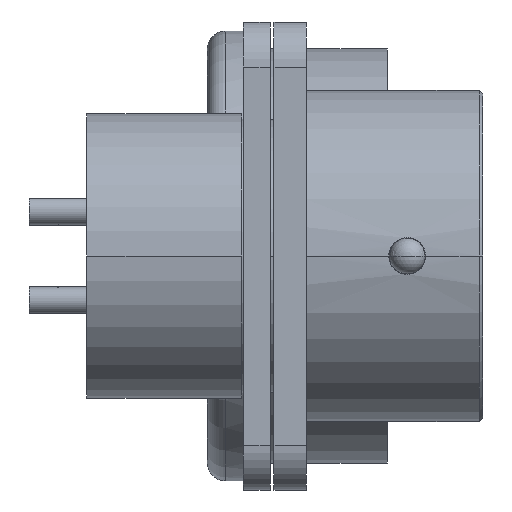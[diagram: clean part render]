
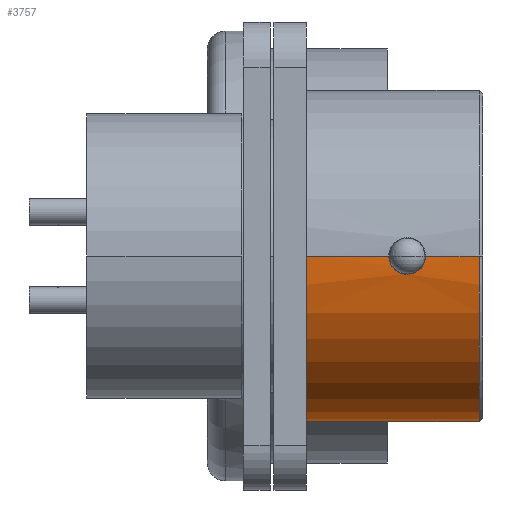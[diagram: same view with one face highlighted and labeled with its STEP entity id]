
A CAD part, front view. The second image highlights one B-rep face of the part: STEP entity #3757.
In plain terms, the highlighted cylindrical face has radius 9.2 mm (diameter 18.4 mm), a partial arc.
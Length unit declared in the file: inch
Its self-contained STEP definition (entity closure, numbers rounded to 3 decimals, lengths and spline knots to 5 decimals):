
#2=CARTESIAN_POINT('',(0.74114,0.69291,-0.82549));
#3=CARTESIAN_POINT('',(0.74114,0.69657,-0.82338));
#4=CARTESIAN_POINT('',(0.7398,0.7038,-0.81903));
#5=CARTESIAN_POINT('',(0.73407,0.7133,-0.81286));
#6=CARTESIAN_POINT('',(0.72499,0.72087,-0.80763));
#7=CARTESIAN_POINT('',(0.71346,0.72566,-0.80416));
#8=CARTESIAN_POINT('',(0.70082,0.72727,-0.80296));
#9=CARTESIAN_POINT('',(0.68821,0.72567,-0.80415));
#10=CARTESIAN_POINT('',(0.67678,0.72097,
-0.80755));
#11=CARTESIAN_POINT('',(0.66765,0.71349,
-0.81273));
#12=CARTESIAN_POINT('',(0.66178,0.70385,
-0.819));
#13=CARTESIAN_POINT('',(0.66043,0.69658,
-0.82337));
#14=CARTESIAN_POINT('',(0.66043,0.69291,
-0.82549));
#24=CARTESIAN_POINT('',(0.83465,0.87402,
-0.51181));
#25=CARTESIAN_POINT('',(0.83465,0.87402,
-0.51419));
#26=CARTESIAN_POINT('',(0.83384,0.87397,
-0.51864));
#27=CARTESIAN_POINT('',(0.83033,0.8738,
-0.52478));
#28=CARTESIAN_POINT('',(0.82484,0.8736,
-0.5293));
#29=CARTESIAN_POINT('',(0.81842,0.87348,
-0.53158));
#30=CARTESIAN_POINT('',(0.81149,0.87348,
-0.5316));
#31=CARTESIAN_POINT('',(0.80494,0.8736,
-0.52921));
#32=CARTESIAN_POINT('',(0.79961,0.8738,
-0.52478));
#33=CARTESIAN_POINT('',(0.7961,0.87397,
-0.51869));
#34=CARTESIAN_POINT('',(0.79528,0.87402,
-0.51421));
#35=CARTESIAN_POINT('',(0.79528,0.87402,
-0.51181));
#37=DIRECTION('',(-1.,0.,0.));
#38=VECTOR('',#37,0.31496);
#39=CARTESIAN_POINT('',(0.79528,0.87402,
-0.51181));
#40=LINE('',#39,#38);
#41=DIRECTION('',(1.,0.,0.));
#42=VECTOR('',#41,0.18012);
#43=CARTESIAN_POINT('',(0.48031,0.14961,
-0.51181));
#44=LINE('',#43,#42);
#45=DIRECTION('',(1.,0.,0.));
#46=VECTOR('',#45,0.11713);
#47=CARTESIAN_POINT('',(0.74114,0.14961,
-0.51181));
#48=LINE('',#47,#46);
#49=DIRECTION('',(-1.,0.,0.));
#50=VECTOR('',#49,0.02362);
#51=CARTESIAN_POINT('',(0.85827,0.87402,
-0.51181));
#52=LINE('',#51,#50);
#61=CARTESIAN_POINT('',(0.83465,0.87402,
-0.51181));
#72=CARTESIAN_POINT('',(0.79528,0.87402,
-0.51181));
#84=CARTESIAN_POINT('',(0.85827,0.51181,
-0.51181));
#85=DIRECTION('',(-1.,0.,0.));
#86=DIRECTION('',(0.,1.,0.));
#87=AXIS2_PLACEMENT_3D('',#84,#85,#86);
#89=CARTESIAN_POINT('',(0.85827,0.51181,
-0.51181));
#90=DIRECTION('',(-1.,0.,0.));
#91=DIRECTION('',(0.,0.,-1.));
#92=AXIS2_PLACEMENT_3D('',#89,#90,#91);
#306=CARTESIAN_POINT('',(0.66043,0.69291,
-0.82549));
#307=CARTESIAN_POINT('',(0.66043,0.68926,
-0.8276));
#308=CARTESIAN_POINT('',(0.66178,0.68187,
-0.83169));
#309=CARTESIAN_POINT('',(0.66751,0.67178,
-0.83683));
#310=CARTESIAN_POINT('',(0.67658,0.66347,
-0.84077));
#311=CARTESIAN_POINT('',(0.68812,0.65807,
-0.84318));
#312=CARTESIAN_POINT('',(0.70075,0.65623,
-0.84398));
#313=CARTESIAN_POINT('',(0.71337,0.65805,
-0.84319));
#314=CARTESIAN_POINT('',(0.72479,0.66335,
-0.84082));
#315=CARTESIAN_POINT('',(0.73392,0.67158,
-0.83693));
#316=CARTESIAN_POINT('',(0.7398,0.68182,
-0.83171));
#317=CARTESIAN_POINT('',(0.74114,0.68924,
-0.82761));
#318=CARTESIAN_POINT('',(0.74114,0.69291,
-0.82549));
#429=CARTESIAN_POINT('',(0.74114,0.14961,
-0.51181));
#430=CARTESIAN_POINT('',(0.74114,0.14961,
-0.51603));
#431=CARTESIAN_POINT('',(0.73981,0.14976,
-0.52446));
#432=CARTESIAN_POINT('',(0.73403,0.15035,
-0.53583));
#433=CARTESIAN_POINT('',(0.72498,0.1511,
-0.54495));
#434=CARTESIAN_POINT('',(0.71349,0.15171,
-0.55082));
#435=CARTESIAN_POINT('',(0.70081,0.15194,
-0.55283));
#436=CARTESIAN_POINT('',(0.68816,0.15171,
-0.55084));
#437=CARTESIAN_POINT('',(0.67674,0.15111,
-0.54505));
#438=CARTESIAN_POINT('',(0.66764,0.15036,
-0.53599));
#439=CARTESIAN_POINT('',(0.66178,0.14976,
-0.52452));
#440=CARTESIAN_POINT('',(0.66043,0.14961,
-0.51605));
#441=CARTESIAN_POINT('',(0.66043,0.14961,
-0.51181));
#737=CARTESIAN_POINT('',(0.48031,0.51181,
-0.51181));
#738=DIRECTION('',(1.,0.,0.));
#739=DIRECTION('',(0.,-1.,0.));
#740=AXIS2_PLACEMENT_3D('',#737,#738,#739);
#2984=CARTESIAN_POINT('',(0.85827,0.14961,
-0.51181));
#2986=VERTEX_POINT('',#2984);
#2987=CARTESIAN_POINT('',(0.85827,0.87402,
-0.51181));
#2988=VERTEX_POINT('',#2987);
#2989=CARTESIAN_POINT('',(0.74114,0.14961,
-0.51181));
#2990=VERTEX_POINT('',#2989);
#2991=CARTESIAN_POINT('',(0.48031,0.14961,
-0.51181));
#2992=CARTESIAN_POINT('',(0.66043,0.14961,
-0.51181));
#2993=VERTEX_POINT('',#2991);
#2994=VERTEX_POINT('',#2992);
#2995=VERTEX_POINT('',#61);
#2996=VERTEX_POINT('',#72);
#3001=CARTESIAN_POINT('',(0.48031,0.87402,
-0.51181));
#3002=VERTEX_POINT('',#3001);
#3519=CARTESIAN_POINT('',(0.85827,0.51181,
-0.87402));
#3520=VERTEX_POINT('',#3519);
#3521=VERTEX_POINT('',#306);
#3522=VERTEX_POINT('',#318);
#3727=CARTESIAN_POINT('',(0.47276,0.51181,
-0.51181));
#3728=DIRECTION('',(1.,0.,0.));
#3729=DIRECTION('',(0.,-1.,0.));
#3730=AXIS2_PLACEMENT_3D('',#3727,#3728,#3729);
#3731=CYLINDRICAL_SURFACE('',#3730,0.3622);
#3733=ORIENTED_EDGE('',*,*,#3732,.T.);
#3735=ORIENTED_EDGE('',*,*,#3734,.T.);
#3737=ORIENTED_EDGE('',*,*,#3736,.F.);
#3739=ORIENTED_EDGE('',*,*,#3738,.T.);
#3741=ORIENTED_EDGE('',*,*,#3740,.F.);
#3743=ORIENTED_EDGE('',*,*,#3742,.T.);
#3745=ORIENTED_EDGE('',*,*,#3744,.F.);
#3747=ORIENTED_EDGE('',*,*,#3746,.F.);
#3749=ORIENTED_EDGE('',*,*,#3748,.T.);
#3750=EDGE_LOOP('',(#3733,#3735,#3737,#3739,#3741,#3743,#3745,#3747,#3749));
#3751=FACE_OUTER_BOUND('',#3750,.F.);
#3753=ORIENTED_EDGE('',*,*,#3752,.F.);
#3754=ORIENTED_EDGE('',*,*,#3716,.F.);
#3755=EDGE_LOOP('',(#3753,#3754));
#3756=FACE_BOUND('',#3755,.F.);
#3757=ADVANCED_FACE('',(#3751,#3756),#3731,.T.);
#15=B_SPLINE_CURVE_WITH_KNOTS('',3,(#2,#3,#4,#5,#6,#7,#8,#9,#10,#11,#12,#13,
#14),.UNSPECIFIED.,.F.,.F.,(4,1,1,1,1,1,1,1,1,1,4),(0.,0.1,0.2,0.3,
0.4,0.5,0.6,0.7,0.8,0.9,1.),.UNSPECIFIED.);
#36=B_SPLINE_CURVE_WITH_KNOTS('',3,(#24,#25,#26,#27,#28,#29,#30,#31,#32,#33,#34,
#35),.UNSPECIFIED.,.F.,.F.,(4,1,1,1,1,1,1,1,1,4),(0.,0.11111,
0.22222,0.33333,0.44444,0.55556,
0.66667,0.77778,0.88889,1.),.UNSPECIFIED.);
#88=CIRCLE('',#87,0.3622);
#93=CIRCLE('',#92,0.3622);
#319=B_SPLINE_CURVE_WITH_KNOTS('',3,(#306,#307,#308,#309,#310,#311,#312,#313,
#314,#315,#316,#317,#318),.UNSPECIFIED.,.F.,.F.,(4,1,1,1,1,1,1,1,1,1,4),(0.,
0.1,0.2,0.3,0.4,0.5,0.6,0.7,0.8,0.9,1.),.UNSPECIFIED.);
#442=B_SPLINE_CURVE_WITH_KNOTS('',3,(#429,#430,#431,#432,#433,#434,#435,#436,
#437,#438,#439,#440,#441),.UNSPECIFIED.,.F.,.F.,(4,1,1,1,1,1,1,1,1,1,4),(0.,
0.1,0.2,0.3,0.4,0.5,0.6,0.7,0.8,0.9,1.),.UNSPECIFIED.);
#741=CIRCLE('',#740,0.3622);
#3716=EDGE_CURVE('',#3522,#3521,#15,.T.);
#3732=EDGE_CURVE('',#2995,#2996,#36,.T.);
#3734=EDGE_CURVE('',#2996,#3002,#40,.T.);
#3736=EDGE_CURVE('',#2993,#3002,#741,.T.);
#3738=EDGE_CURVE('',#2993,#2994,#44,.T.);
#3740=EDGE_CURVE('',#2990,#2994,#442,.T.);
#3742=EDGE_CURVE('',#2990,#2986,#48,.T.);
#3744=EDGE_CURVE('',#3520,#2986,#93,.T.);
#3746=EDGE_CURVE('',#2988,#3520,#88,.T.);
#3748=EDGE_CURVE('',#2988,#2995,#52,.T.);
#3752=EDGE_CURVE('',#3521,#3522,#319,.T.);
